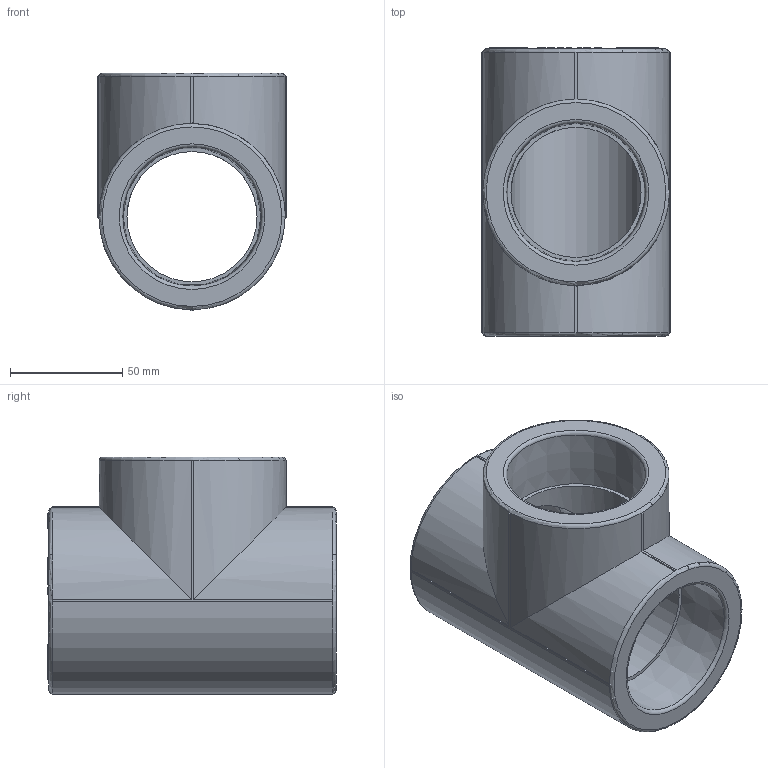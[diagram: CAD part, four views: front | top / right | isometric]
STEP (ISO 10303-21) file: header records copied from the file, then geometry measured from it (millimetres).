
FILE_DESCRIPTION(('STEP AP203'), '1');
FILE_NAME('ÂÐ.752241.031 - VTp.731.0.063', '', ('UNSPECIFIED'), ('UNSPECIFIED'), 'C3D Converter', 'C3D Toolkit', '');
FILE_SCHEMA(('CONFIG_CONTROL_DESIGN'));
Length unit declared in the file: millimetre
Products named in the file (1): ВР.752241.031
Bounding box: 84 x 128.5 x 106 mm (x, y, z)
Volume: 376846.7 mm3; surface area: 73573.3 mm2
Topology: 1 solids, 1 shells, 1065 faces, 2989 edges, 1983 vertices
Faces by surface type: extrusion 622, plane 397, cylinder 37, torus 6, cone 3
Full cylindrical faces by diameter (mm): 8 x1, 58 x2
Entity records: 39746 total; most frequent: CARTESIAN_POINT 15599, ORIENTED_EDGE 5952, DIRECTION 2984, EDGE_CURVE 2976, VECTOR 2014, VERTEX_POINT 1983, B_SPLINE_CURVE_WITH_KNOTS 1868, LINE 1392
